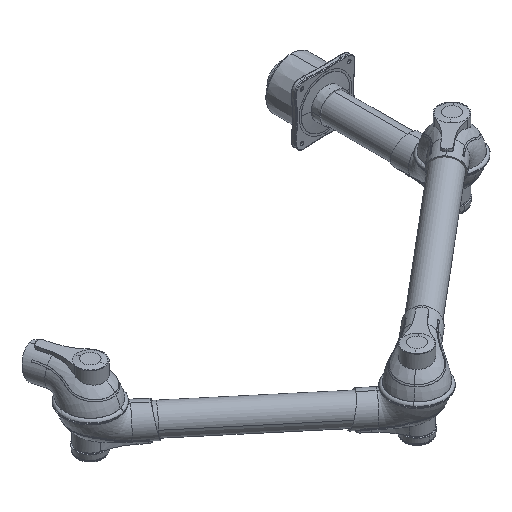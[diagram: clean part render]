
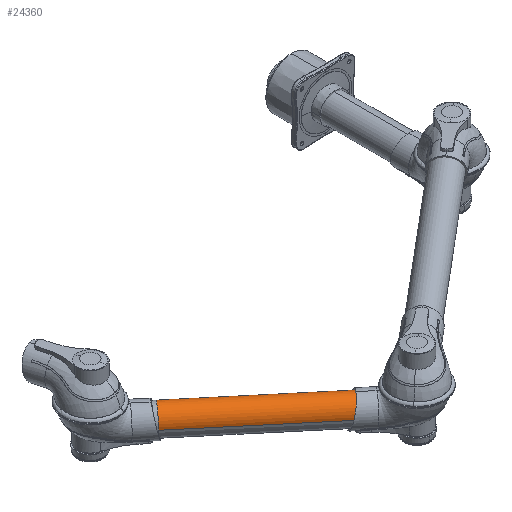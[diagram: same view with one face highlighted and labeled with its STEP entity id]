
A CAD part, isometric view. The second image highlights one B-rep face of the part: STEP entity #24360.
In plain terms, the highlighted cylindrical face has radius 26.3 mm (diameter 52.6 mm), a partial arc.
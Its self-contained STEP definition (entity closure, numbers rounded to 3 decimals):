
#24199=DIRECTION('',(-1.,0.,0.));
#24200=VECTOR('',#24199,303.307);
#24201=CARTESIAN_POINT('',(0.,26.3,0.));
#24202=LINE('',#24201,#24200);
#24206=CARTESIAN_POINT('',(-303.307,0.,0.));
#24207=DIRECTION('',(1.,0.,0.));
#24208=DIRECTION('',(0.,-1.,0.));
#24209=AXIS2_PLACEMENT_3D('',#24206,#24207,#24208);
#24214=DIRECTION('',(-1.,0.,0.));
#24215=VECTOR('',#24214,303.307);
#24216=CARTESIAN_POINT('',(0.,-26.3,0.));
#24217=LINE('',#24216,#24215);
#24221=CARTESIAN_POINT('',(0.,0.,0.));
#24222=DIRECTION('',(-1.,0.,0.));
#24223=DIRECTION('',(0.,1.,0.));
#24224=AXIS2_PLACEMENT_3D('',#24221,#24222,#24223);
#24291=CARTESIAN_POINT('',(0.,26.3,0.));
#24292=CARTESIAN_POINT('',(0.,-26.3,0.));
#24293=VERTEX_POINT('',#24291);
#24294=VERTEX_POINT('',#24292);
#24295=CARTESIAN_POINT('',(-303.307,26.3,0.));
#24296=VERTEX_POINT('',#24295);
#24297=CARTESIAN_POINT('',(-303.307,-26.3,0.));
#24298=VERTEX_POINT('',#24297);
#24348=CARTESIAN_POINT('',(-357.,0.,0.));
#24349=DIRECTION('',(1.,0.,0.));
#24350=DIRECTION('',(0.,-1.,0.));
#24351=AXIS2_PLACEMENT_3D('',#24348,#24349,#24350);
#24352=CYLINDRICAL_SURFACE('',#24351,26.3);
#24353=ORIENTED_EDGE('',*,*,#24331,.T.);
#24355=ORIENTED_EDGE('',*,*,#24354,.F.);
#24356=ORIENTED_EDGE('',*,*,#24334,.F.);
#24357=ORIENTED_EDGE('',*,*,#24314,.F.);
#24358=EDGE_LOOP('',(#24353,#24355,#24356,#24357));
#24359=FACE_OUTER_BOUND('',#24358,.F.);
#24210=CIRCLE('',#24209,26.3);
#24225=CIRCLE('',#24224,26.3);
#24314=EDGE_CURVE('',#24293,#24294,#24225,.T.);
#24331=EDGE_CURVE('',#24293,#24296,#24202,.T.);
#24334=EDGE_CURVE('',#24294,#24298,#24217,.T.);
#24354=EDGE_CURVE('',#24298,#24296,#24210,.T.);
#24360=ADVANCED_FACE('',(#24359),#24352,.T.);
